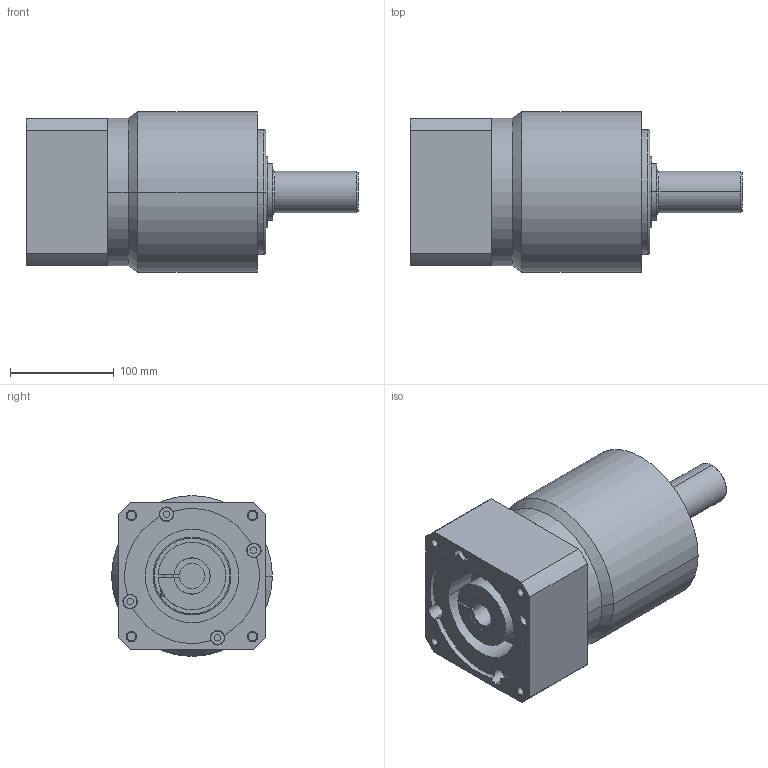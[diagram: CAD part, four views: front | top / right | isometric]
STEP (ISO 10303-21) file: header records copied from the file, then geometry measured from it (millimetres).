
FILE_DESCRIPTION((''),'2;1');
FILE_NAME('MB_PLPE_MASTER','2019-11-27T',('agw'),(''),'CREO PARAMETRIC BY PTC INC, 2015290','CREO PARAMETRIC BY PTC INC, 2015290','');
FILE_SCHEMA(('AUTOMOTIVE_DESIGN { 1 0 10303 214 1 1 1 1 }'));
Length unit declared in the file: millimetre
Products named in the file (1): MB_PLPE_MASTER
Bounding box: 320 x 155 x 155 mm (x, y, z)
Volume: 4189322.4 mm3; surface area: 225078 mm2
Topology: 1 solids, 9 shells, 183 faces, 431 edges, 282 vertices
Faces by surface type: cylinder 86, plane 85, torus 8, cone 4
Entity records: 6022 total; most frequent: DIRECTION 999, CARTESIAN_POINT 923, ORIENTED_EDGE 830, EDGE_CURVE 431, AXIS2_PLACEMENT_3D 385, VERTEX_POINT 282, VECTOR 229, LINE 229
